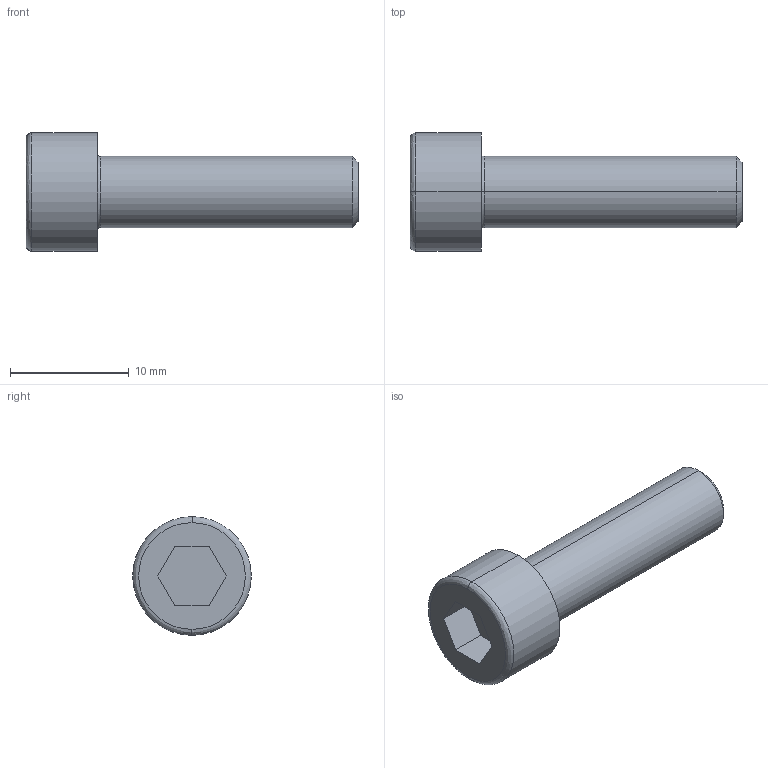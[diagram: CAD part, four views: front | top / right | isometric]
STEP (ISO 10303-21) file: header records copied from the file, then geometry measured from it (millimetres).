
FILE_DESCRIPTION (( 'STEP AP203' ), '1' );
FILE_NAME ('032 Vis CHc M6x22.STEP', '2021-10-27T18:28:03', ( '' ), ( '' ), 'SwSTEP 2.0', 'SolidWorks 2019', '' );
FILE_SCHEMA (( 'CONFIG_CONTROL_DESIGN' ));
Length unit declared in the file: millimetre
Products named in the file (1): 032 Vis CHc M6x22
Bounding box: 28 x 10 x 10 mm (x, y, z)
Volume: 1013.6 mm3; surface area: 1242.6 mm2
Topology: 1 solids, 1 shells, 27 faces, 59 edges, 36 vertices
Faces by surface type: plane 13, cylinder 8, bspline 4, cone 2
Entity records: 859 total; most frequent: CARTESIAN_POINT 183, DIRECTION 132, ORIENTED_EDGE 118, EDGE_CURVE 59, AXIS2_PLACEMENT_3D 49, VERTEX_POINT 36, LINE 34, VECTOR 34
